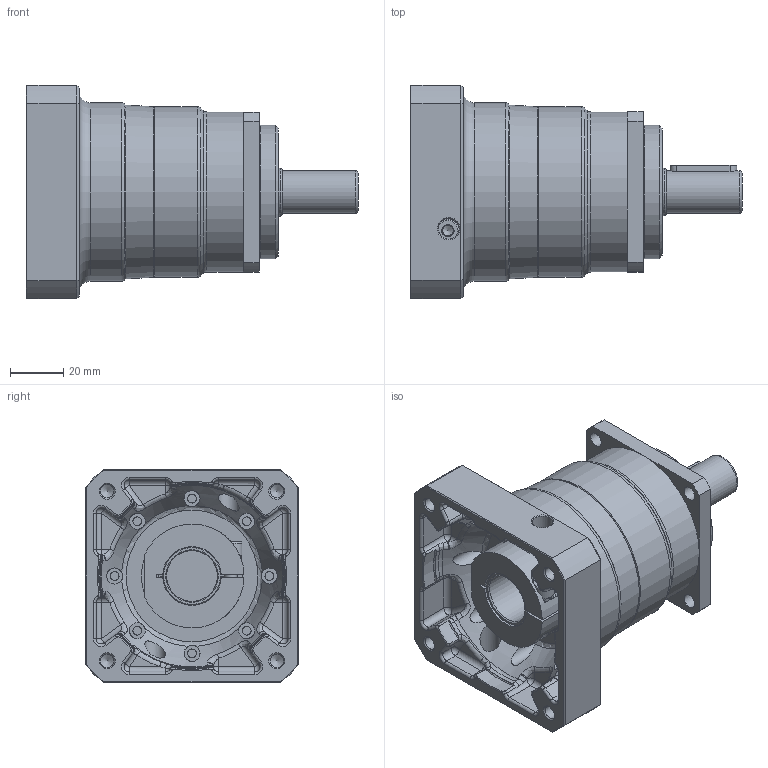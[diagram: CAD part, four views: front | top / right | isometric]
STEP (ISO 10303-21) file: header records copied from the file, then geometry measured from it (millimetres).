
FILE_DESCRIPTION(/* description */ (''),/* implementation_level */ '2;1');
FILE_NAME(/* name */ 'WEB060-L1-70-90-M6-19-41.stp',/* time_stamp */ '2025-07-15T16:14:17+08:00',/* author */ (''),/* organization */ (''),/* preprocessor_version */ 'ST-DEVELOPER v16.7',/* originating_system */ 'SIEMENS PLM Software NX 12.0',/* authorisation */ '');
FILE_SCHEMA (('AUTOMOTIVE_DESIGN { 1 0 10303 214 3 1 1 1 }'));
Length unit declared in the file: millimetre
Products named in the file (2): VRB-060-L1_Flange; WEB090-L2-70-90-M6-19-41_stp
Assembly tree (1 placements, depth 2):
  WEB090-L2-70-90-M6-19-41_stp
    VRB-060-L1_Flange
Bounding box: 124.5 x 80 x 80 mm (x, y, z)
Volume: 262299.2 mm3; surface area: 62817.6 mm2
Topology: 6 solids, 6 shells, 443 faces, 1049 edges, 619 vertices
Faces by surface type: cylinder 150, plane 112, torus 65, bspline 61, cone 39, sphere 16
Full cylindrical faces by diameter (mm): 3.3 x8, 4.134 x1, 4.2 x1, 4.826 x1, 5 x4, 5.3 x2, 5.5 x4, 6 x8, 7.8 x2, 8.5 x1, 16 x1, 18 x1, 19 x1, 19.3 x1, 22 x1, 23.6 x1, 25 x1, 38 x1, 42 x1, 50 x1, 60 x1, 64 x1, 67 x1
Entity records: 16243 total; most frequent: CARTESIAN_POINT 4304, DIRECTION 2006, ORIENTED_EDGE 1848, EDGE_CURVE 924, AXIS2_PLACEMENT_3D 882, VERTEX_POINT 596, EDGE_LOOP 574, CIRCLE 494
